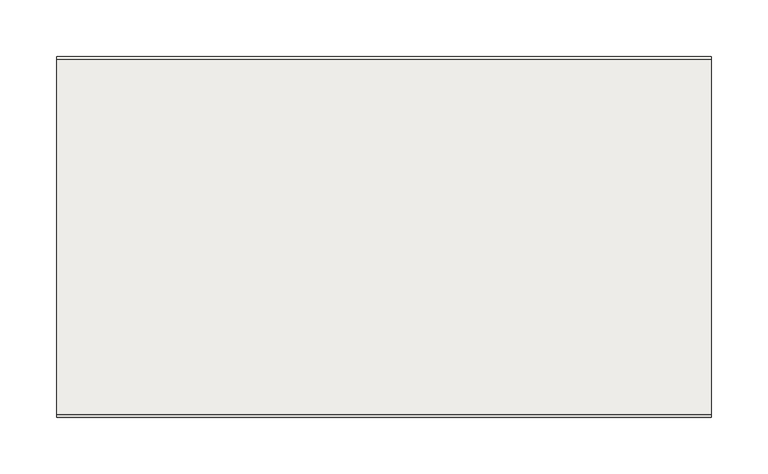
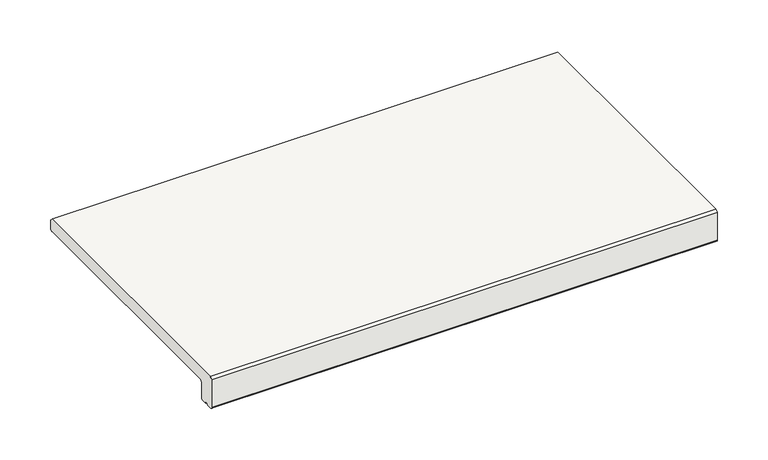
"""IFC4 building model written with IfcOpenShell, lengths in millimetres: slab geometry, ROSA GRES_L98 : Pieza L98_Serena_Ocra_Anti-Slip."""

from ifc_helpers import new_model, si_unit, point, frame, frame_2d, origin, place, context, project, spatial, polyline, circle_curve, trimmed, segment, composite_curve, outline, extrude, source, transform, mapped, element, save


def slab_a524a29e(model_context):
    return source(origin(), model_context, "Body", "SweptSolid", [
        extrude(outline(composite_curve([segment(polyline([(17.5526771, -23.0), (11.8841218, -23.0)]), True, "CONTINUOUS"), segment(trimmed(circle_curve(frame_2d((10.0167467, -23.0)), 1.8673751), [point((11.8841218, -23.0))], [point((8.1493716, -23.0))], True, "CARTESIAN"), True, "CONTINUOUS"), segment(polyline([(8.1493716, -23.0), (2.5, -23.0)]), True, "CONTINUOUS"), segment(trimmed(circle_curve(frame_2d((2.5, -20.5)), 2.5), [point((2.5, -23.0))], [point((0.0, -20.5))], False, "CARTESIAN"), True, "CONTINUOUS"), segment(polyline([(0.0, -20.5), (0.0, 12.5), (2.5, 15.0), (314.5, 15.0), (317.0, 12.5), (317.0, 2.5)]), True, "CONTINUOUS"), segment(trimmed(circle_curve(frame_2d((314.5, 2.5)), 2.5), [point((317.0, 2.5))], [point((314.5, 0.0))], False, "CARTESIAN"), True, "CONTINUOUS"), segment(polyline([(314.5, 0.0), (22.471267, 0.0)]), True, "CONTINUOUS"), segment(trimmed(circle_curve(frame_2d((22.471267, -2.5191553)), 2.5191553), [point((22.471267, 0.0))], [point((19.9521117, -2.5191553))], True, "CARTESIAN"), True, "CONTINUOUS"), segment(polyline([(19.9521117, -2.5191553), (19.9521117, -20.6005654)]), True, "CONTINUOUS"), segment(trimmed(circle_curve(frame_2d((17.5526771, -20.6005654)), 2.3994346), [point((19.9521117, -20.6005654))], [point((17.5526771, -23.0))], False, "CARTESIAN"), True, "CONTINUOUS")], self_intersect=False)), frame((0.0, 0.0, 0.0), z_axis=(1.0, 0.0, 0.0), x_axis=(0.0, 1.0, 0.0)), (0.0, 0.0, 1.0), 575.0),
    ])


if __name__ == "__main__":
    model = new_model("IFC4")
    model_context = context("Model", 3, world=origin())
    ifc_project = project(units=[si_unit("LENGTHUNIT", "METRE", prefix="MILLI")], contexts=[model_context])
    site = spatial("IfcSite", under=ifc_project)
    building = spatial("IfcBuilding", under=site)
    placement = place(None, origin())
    slab_shape = slab_a524a29e(model_context)
    element("IfcSlab", 1, ObjectType="ROSA GRES_L98 : Pieza L98_Serena_Ocra_Anti-Slip", at=placement, inside=building, context=model_context, shape_type="MappedRepresentation", body=[
        mapped(slab_shape, transform((0.0, 0.0, 0.0), x_axis=(1.0, 0.0, 0.0), y_axis=(0.0, 1.0, 0.0), z_axis=(0.0, 0.0, 1.0))),
    ])
    save(model, "model.ifc")
